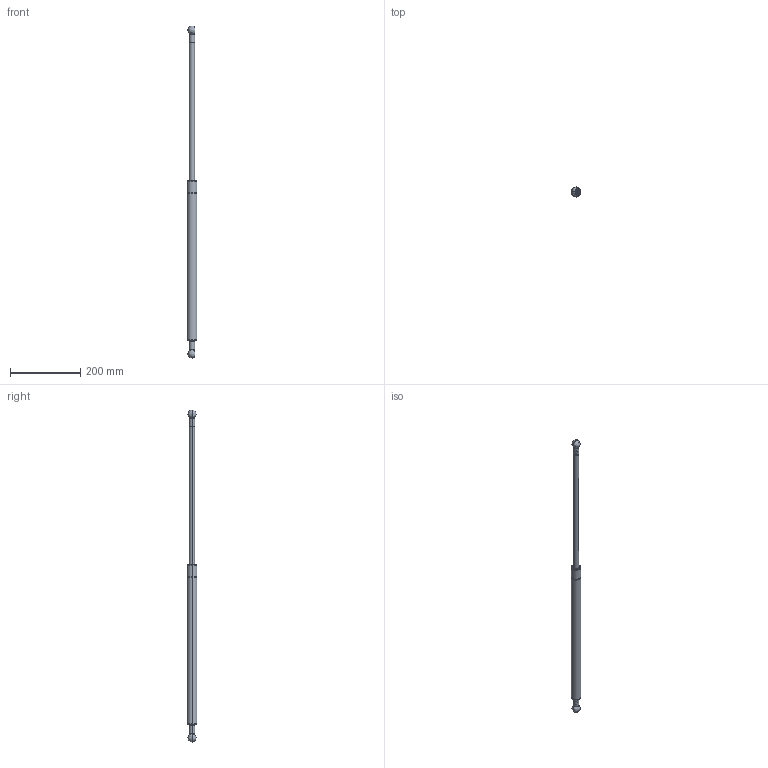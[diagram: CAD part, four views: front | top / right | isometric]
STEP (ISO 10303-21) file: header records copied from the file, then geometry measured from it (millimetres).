
FILE_DESCRIPTION (( 'STEP AP214' ), '1' );
FILE_NAME ('GS14-1500MD16.STEP', '2011-03-30T21:49:12', ( 'user' ), ( '' ), 'SwSTEP 2.0', 'SolidWorks 2011', '' );
FILE_SCHEMA (( 'AUTOMOTIVE_DESIGN' ));
Length unit declared in the file: millimetre
Products named in the file (5): 4412; GS14-1500MD16; GS14-1500MD16-SHAFT; GS14-1500MD16-NC; GS14-1500MD16-TUBE
Assembly tree (5 placements, depth 3):
  GS14-1500MD16
    4412  x2
    GS14-1500MD16-NC
      GS14-1500MD16-SHAFT
      GS14-1500MD16-TUBE
Bounding box: 28 x 28 x 945.94 mm (x, y, z)
Volume: 292065.2 mm3; surface area: 87835.1 mm2
Topology: 4 solids, 4 shells, 133 faces, 338 edges, 210 vertices
Faces by surface type: cylinder 82, bspline 22, plane 17, torus 8, cone 4
Entity records: 4001 total; most frequent: CARTESIAN_POINT 2126, ORIENTED_EDGE 376, DIRECTION 354, EDGE_CURVE 188, AXIS2_PLACEMENT_3D 151, VERTEX_POINT 120, EDGE_LOOP 90, FACE_OUTER_BOUND 80
